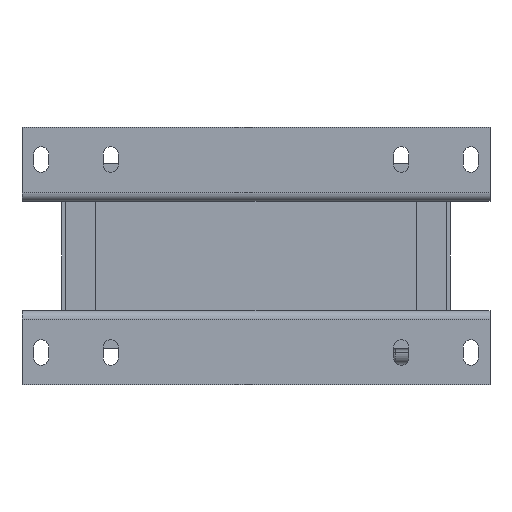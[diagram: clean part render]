
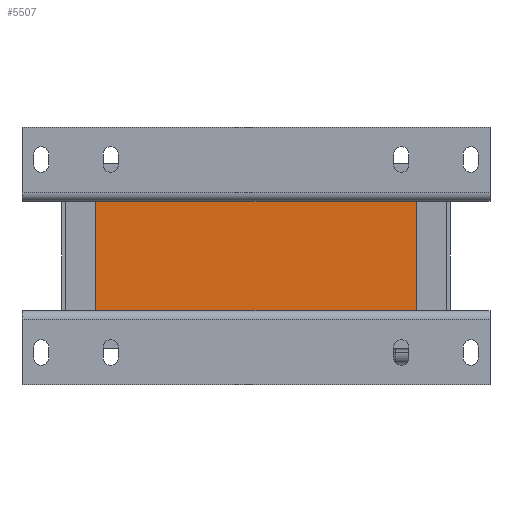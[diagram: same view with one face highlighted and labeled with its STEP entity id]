
A CAD part, front view. The second image highlights one B-rep face of the part: STEP entity #5507.
In plain terms, the highlighted planar face has unit normal (0, -1, 0).
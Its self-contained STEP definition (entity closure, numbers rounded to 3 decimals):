
#1212 = CARTESIAN_POINT ( 'NONE',  ( 75., 7., -25.65 ) ) ;
#2712 = ORIENTED_EDGE ( 'NONE', *, *, #17508, .T. ) ;
#2779 = VECTOR ( 'NONE', #19055, 1000. ) ;
#5458 = DIRECTION ( 'NONE',  ( 0., 1., 0. ) ) ;
#5507 = ADVANCED_FACE ( 'NONE', ( #15163 ), #11922, .F. ) ;
#5634 = LINE ( 'NONE', #8446, #12562 ) ;
#6222 = VERTEX_POINT ( 'NONE', #1212 ) ;
#6556 = DIRECTION ( 'NONE',  ( 1., 0., 0. ) ) ;
#6738 = ORIENTED_EDGE ( 'NONE', *, *, #7912, .F. ) ;
#6762 = AXIS2_PLACEMENT_3D ( 'NONE', #10196, #5458, #12030 ) ;
#6807 = CARTESIAN_POINT ( 'NONE',  ( 75., 7., 25.65 ) ) ;
#7093 = ORIENTED_EDGE ( 'NONE', *, *, #16816, .F. ) ;
#7267 = DIRECTION ( 'NONE',  ( 0., 0., -1. ) ) ;
#7487 = CARTESIAN_POINT ( 'NONE',  ( 75., 7., 178.881 ) ) ;
#7912 = EDGE_CURVE ( 'NONE', #13719, #6222, #8461, .T. ) ;
#8446 = CARTESIAN_POINT ( 'NONE',  ( -75., 7., -25.65 ) ) ;
#8461 = LINE ( 'NONE', #7487, #21185 ) ;
#9902 = ORIENTED_EDGE ( 'NONE', *, *, #12864, .T. ) ;
#10196 = CARTESIAN_POINT ( 'NONE',  ( -75., 7., 178.881 ) ) ;
#10798 = EDGE_LOOP ( 'NONE', ( #2712, #6738, #7093, #9902 ) ) ;
#10978 = VERTEX_POINT ( 'NONE', #21047 ) ;
#11922 = PLANE ( 'NONE',  #6762 ) ;
#12030 = DIRECTION ( 'NONE',  ( -1., 0., 0. ) ) ;
#12562 = VECTOR ( 'NONE', #12643, 1000. ) ;
#12643 = DIRECTION ( 'NONE',  ( 1., 0., 0. ) ) ;
#12864 = EDGE_CURVE ( 'NONE', #10978, #19737, #14528, .T. ) ;
#13719 = VERTEX_POINT ( 'NONE', #6807 ) ;
#14528 = LINE ( 'NONE', #20894, #2779 ) ;
#14760 = CARTESIAN_POINT ( 'NONE',  ( -75., 7., 25.65 ) ) ;
#15163 = FACE_OUTER_BOUND ( 'NONE', #10798, .T. ) ;
#16816 = EDGE_CURVE ( 'NONE', #10978, #13719, #19385, .T. ) ;
#17508 = EDGE_CURVE ( 'NONE', #19737, #6222, #5634, .T. ) ;
#19055 = DIRECTION ( 'NONE',  ( 0., 0., -1. ) ) ;
#19385 = LINE ( 'NONE', #14760, #19393 ) ;
#19393 = VECTOR ( 'NONE', #6556, 1000. ) ;
#19737 = VERTEX_POINT ( 'NONE', #20516 ) ;
#20516 = CARTESIAN_POINT ( 'NONE',  ( -75., 7., -25.65 ) ) ;
#20894 = CARTESIAN_POINT ( 'NONE',  ( -75., 7., 178.881 ) ) ;
#21047 = CARTESIAN_POINT ( 'NONE',  ( -75., 7., 25.65 ) ) ;
#21185 = VECTOR ( 'NONE', #7267, 1000. ) ;
